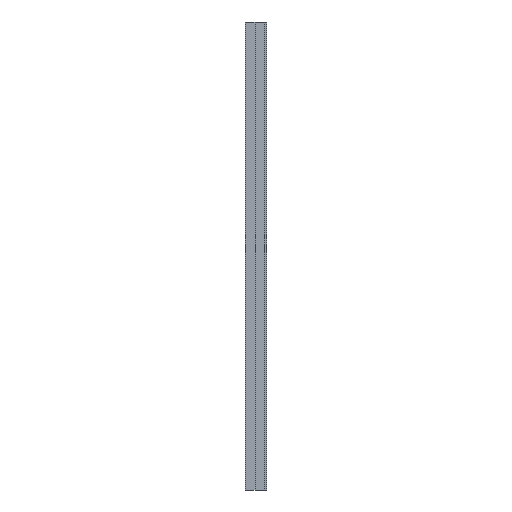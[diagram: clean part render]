
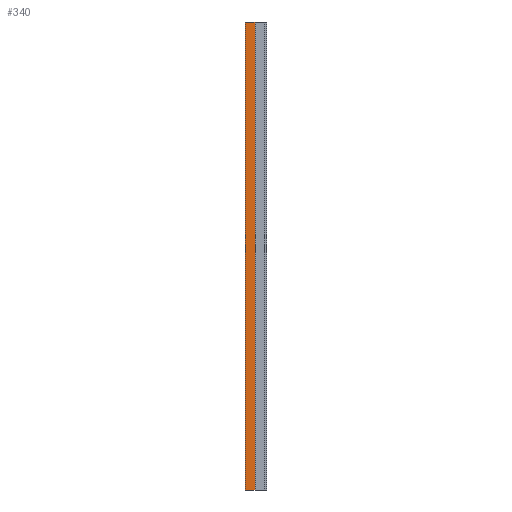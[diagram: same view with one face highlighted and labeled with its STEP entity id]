
A CAD part, left-side view. The second image highlights one B-rep face of the part: STEP entity #340.
In plain terms, the highlighted planar face has unit normal (-1, 0, 0).
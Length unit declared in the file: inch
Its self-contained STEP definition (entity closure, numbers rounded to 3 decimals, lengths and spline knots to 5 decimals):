
#21=PLANE('',#391);
#38=FACE_OUTER_BOUND('',#56,.T.);
#56=EDGE_LOOP('',(#283,#284,#285,#286));
#73=LINE('',#533,#109);
#77=LINE('',#542,#113);
#91=LINE('',#579,#127);
#92=LINE('',#580,#128);
#109=VECTOR('',#431,0.3937);
#113=VECTOR('',#441,0.3937);
#127=VECTOR('',#475,0.3937);
#128=VECTOR('',#476,0.3937);
#160=VERTEX_POINT('',#530);
#161=VERTEX_POINT('',#532);
#163=VERTEX_POINT('',#541);
#176=VERTEX_POINT('',#578);
#194=EDGE_CURVE('',#160,#161,#73,.T.);
#199=EDGE_CURVE('',#163,#161,#77,.T.);
#218=EDGE_CURVE('',#176,#160,#91,.T.);
#219=EDGE_CURVE('',#163,#176,#92,.T.);
#283=ORIENTED_EDGE('',*,*,#194,.F.);
#284=ORIENTED_EDGE('',*,*,#218,.F.);
#285=ORIENTED_EDGE('',*,*,#219,.F.);
#286=ORIENTED_EDGE('',*,*,#199,.T.);
#340=ADVANCED_FACE('',(#38),#21,.T.);
#391=AXIS2_PLACEMENT_3D('',#577,#473,#474);
#431=DIRECTION('',(0.,0.,-1.));
#441=DIRECTION('',(0.,-1.,0.));
#473=DIRECTION('center_axis',(-1.,0.,0.));
#474=DIRECTION('ref_axis',(0.,-1.,0.));
#475=DIRECTION('',(0.,-1.,0.));
#476=DIRECTION('',(0.,0.,1.));
#530=CARTESIAN_POINT('',(-0.0179,0.0071,120.));
#532=CARTESIAN_POINT('',(-0.0179,0.0071,0.));
#533=CARTESIAN_POINT('',(-0.0179,0.0071,0.));
#541=CARTESIAN_POINT('',(-0.0179,2.5625,0.));
#542=CARTESIAN_POINT('',(-0.0179,2.5625,0.));
#577=CARTESIAN_POINT('Origin',(-0.0179,2.5625,0.));
#578=CARTESIAN_POINT('',(-0.0179,2.5625,120.));
#579=CARTESIAN_POINT('',(-0.0179,2.5625,120.));
#580=CARTESIAN_POINT('',(-0.0179,2.5625,0.));
